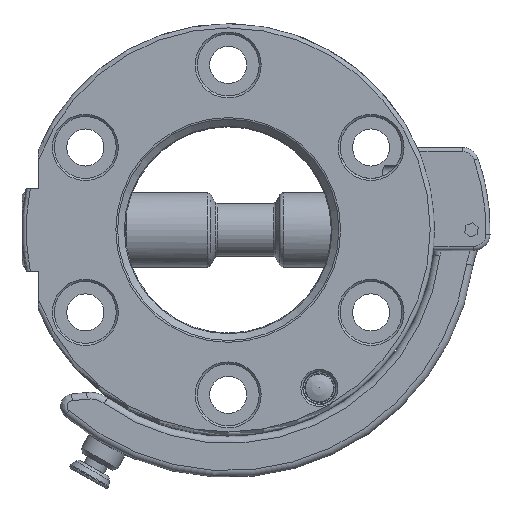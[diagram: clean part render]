
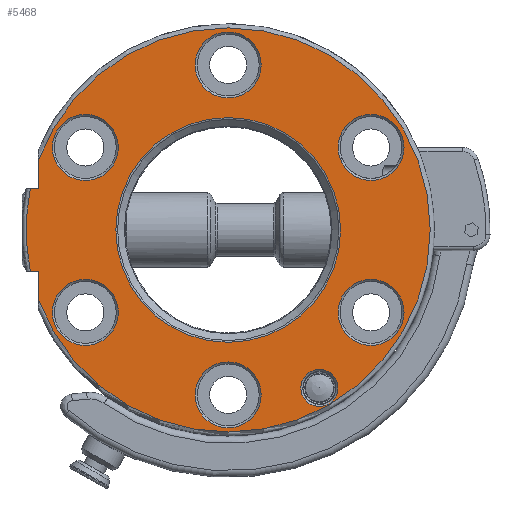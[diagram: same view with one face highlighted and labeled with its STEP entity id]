
A CAD part, front view. The second image highlights one B-rep face of the part: STEP entity #5468.
In plain terms, the highlighted planar face has unit normal (0, -1, 0).
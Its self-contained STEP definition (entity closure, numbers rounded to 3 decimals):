
#234=FACE_BOUND('',#828,.T.);
#235=FACE_BOUND('',#829,.T.);
#236=FACE_BOUND('',#830,.T.);
#237=FACE_BOUND('',#831,.T.);
#238=FACE_BOUND('',#832,.T.);
#239=FACE_BOUND('',#833,.T.);
#240=FACE_BOUND('',#834,.T.);
#241=FACE_BOUND('',#835,.T.);
#315=PLANE('',#6043);
#523=FACE_OUTER_BOUND('',#827,.T.);
#827=EDGE_LOOP('',(#4162,#4163,#4164,#4165,#4166,#4167));
#828=EDGE_LOOP('',(#4168));
#829=EDGE_LOOP('',(#4169));
#830=EDGE_LOOP('',(#4170));
#831=EDGE_LOOP('',(#4171,#4172));
#832=EDGE_LOOP('',(#4173));
#833=EDGE_LOOP('',(#4174));
#834=EDGE_LOOP('',(#4175));
#835=EDGE_LOOP('',(#4176));
#1100=LINE('',#9414,#1372);
#1105=LINE('',#9423,#1377);
#1108=LINE('',#9439,#1380);
#1115=LINE('',#9455,#1387);
#1372=VECTOR('',#7148,10.);
#1377=VECTOR('',#7155,10.);
#1380=VECTOR('',#7172,10.);
#1387=VECTOR('',#7191,10.);
#1710=CIRCLE('',#5903,27.249);
#1711=CIRCLE('',#5904,27.249);
#1715=CIRCLE('',#5909,49.);
#1751=CIRCLE('',#5960,49.);
#1776=CIRCLE('',#6009,8.);
#1779=CIRCLE('',#6014,8.);
#1782=CIRCLE('',#6019,8.);
#1785=CIRCLE('',#6024,8.);
#1788=CIRCLE('',#6029,8.);
#1791=CIRCLE('',#6034,8.);
#1797=CIRCLE('',#6044,4.5);
#2186=VERTEX_POINT('',#8948);
#2187=VERTEX_POINT('',#8950);
#2188=VERTEX_POINT('',#8954);
#2193=VERTEX_POINT('',#8972);
#2261=VERTEX_POINT('',#9389);
#2262=VERTEX_POINT('',#9400);
#2263=VERTEX_POINT('',#9413);
#2266=VERTEX_POINT('',#9421);
#2293=VERTEX_POINT('',#9521);
#2296=VERTEX_POINT('',#9531);
#2299=VERTEX_POINT('',#9541);
#2302=VERTEX_POINT('',#9551);
#2305=VERTEX_POINT('',#9561);
#2308=VERTEX_POINT('',#9571);
#2314=VERTEX_POINT('',#9590);
#2823=EDGE_CURVE('',#2186,#2187,#1710,.T.);
#2824=EDGE_CURVE('',#2187,#2186,#1711,.T.);
#2830=EDGE_CURVE('',#2193,#2188,#1715,.T.);
#2907=EDGE_CURVE('',#2261,#2262,#1751,.T.);
#2909=EDGE_CURVE('',#2263,#2262,#1100,.T.);
#2914=EDGE_CURVE('',#2261,#2266,#1105,.T.);
#2921=EDGE_CURVE('',#2266,#2188,#1108,.T.);
#2931=EDGE_CURVE('',#2193,#2263,#1115,.T.);
#2964=EDGE_CURVE('',#2293,#2293,#1776,.T.);
#2969=EDGE_CURVE('',#2296,#2296,#1779,.T.);
#2974=EDGE_CURVE('',#2299,#2299,#1782,.T.);
#2979=EDGE_CURVE('',#2302,#2302,#1785,.T.);
#2984=EDGE_CURVE('',#2305,#2305,#1788,.T.);
#2989=EDGE_CURVE('',#2308,#2308,#1791,.T.);
#2998=EDGE_CURVE('',#2314,#2314,#1797,.T.);
#4162=ORIENTED_EDGE('',*,*,#2921,.T.);
#4163=ORIENTED_EDGE('',*,*,#2830,.F.);
#4164=ORIENTED_EDGE('',*,*,#2931,.T.);
#4165=ORIENTED_EDGE('',*,*,#2909,.T.);
#4166=ORIENTED_EDGE('',*,*,#2907,.F.);
#4167=ORIENTED_EDGE('',*,*,#2914,.T.);
#4168=ORIENTED_EDGE('',*,*,#2989,.F.);
#4169=ORIENTED_EDGE('',*,*,#2979,.F.);
#4170=ORIENTED_EDGE('',*,*,#2969,.F.);
#4171=ORIENTED_EDGE('',*,*,#2824,.F.);
#4172=ORIENTED_EDGE('',*,*,#2823,.F.);
#4173=ORIENTED_EDGE('',*,*,#2964,.F.);
#4174=ORIENTED_EDGE('',*,*,#2974,.F.);
#4175=ORIENTED_EDGE('',*,*,#2984,.F.);
#4176=ORIENTED_EDGE('',*,*,#2998,.F.);
#5468=ADVANCED_FACE('',(#523,#234,#235,#236,#237,#238,#239,#240,#241),#315,
 .T.);
#5903=AXIS2_PLACEMENT_3D('',#8951,#7013,#7014);
#5904=AXIS2_PLACEMENT_3D('',#8952,#7015,#7016);
#5909=AXIS2_PLACEMENT_3D('',#8983,#7025,#7026);
#5960=AXIS2_PLACEMENT_3D('',#9401,#7144,#7145);
#6009=AXIS2_PLACEMENT_3D('',#9522,#7273,#7274);
#6014=AXIS2_PLACEMENT_3D('',#9532,#7285,#7286);
#6019=AXIS2_PLACEMENT_3D('',#9542,#7297,#7298);
#6024=AXIS2_PLACEMENT_3D('',#9552,#7309,#7310);
#6029=AXIS2_PLACEMENT_3D('',#9562,#7321,#7322);
#6034=AXIS2_PLACEMENT_3D('',#9572,#7333,#7334);
#6043=AXIS2_PLACEMENT_3D('',#9589,#7354,#7355);
#6044=AXIS2_PLACEMENT_3D('',#9591,#7356,#7357);
#7013=DIRECTION('center_axis',(0.,-1.,0.));
#7014=DIRECTION('ref_axis',(1.,0.,0.));
#7015=DIRECTION('center_axis',(0.,-1.,0.));
#7016=DIRECTION('ref_axis',(1.,0.,0.));
#7025=DIRECTION('center_axis',(0.,1.,0.));
#7026=DIRECTION('ref_axis',(1.,0.,0.));
#7144=DIRECTION('center_axis',(0.,1.,0.));
#7145=DIRECTION('ref_axis',(1.,0.,0.));
#7148=DIRECTION('',(-1.,0.,0.));
#7155=DIRECTION('',(1.,0.,0.));
#7172=DIRECTION('',(0.,0.,-1.));
#7191=DIRECTION('',(0.,0.,-1.));
#7273=DIRECTION('center_axis',(0.,-1.,0.));
#7274=DIRECTION('ref_axis',(-1.,0.,0.));
#7285=DIRECTION('center_axis',(0.,-1.,0.));
#7286=DIRECTION('ref_axis',(-1.,0.,0.));
#7297=DIRECTION('center_axis',(0.,-1.,0.));
#7298=DIRECTION('ref_axis',(-1.,0.,0.));
#7309=DIRECTION('center_axis',(0.,-1.,0.));
#7310=DIRECTION('ref_axis',(-1.,0.,0.));
#7321=DIRECTION('center_axis',(0.,-1.,0.));
#7322=DIRECTION('ref_axis',(-1.,0.,0.));
#7333=DIRECTION('center_axis',(0.,-1.,0.));
#7334=DIRECTION('ref_axis',(-1.,0.,0.));
#7354=DIRECTION('center_axis',(0.,-1.,0.));
#7355=DIRECTION('ref_axis',(0.,0.,-1.));
#7356=DIRECTION('center_axis',(0.,-1.,0.));
#7357=DIRECTION('ref_axis',(-1.,0.,0.));
#8948=CARTESIAN_POINT('',(0.,0.,27.249));
#8950=CARTESIAN_POINT('',(-27.249,0.,0.));
#8951=CARTESIAN_POINT('Origin',(0.,0.,
0.));
#8952=CARTESIAN_POINT('Origin',(0.,0.,
0.));
#8954=CARTESIAN_POINT('',(-46.,0.,-16.882));
#8972=CARTESIAN_POINT('',(-46.,0.,16.882));
#8983=CARTESIAN_POINT('Origin',(0.,0.,
0.));
#9389=CARTESIAN_POINT('',(-47.969,0.,-10.));
#9400=CARTESIAN_POINT('',(-47.969,0.,10.));
#9401=CARTESIAN_POINT('Origin',(0.,0.,
0.));
#9413=CARTESIAN_POINT('',(-46.,0.,10.));
#9414=CARTESIAN_POINT('',(-41.75,0.,10.));
#9421=CARTESIAN_POINT('',(-46.,0.,-10.));
#9423=CARTESIAN_POINT('',(-43.245,0.,-10.));
#9439=CARTESIAN_POINT('',(-46.,0.,-5.));
#9455=CARTESIAN_POINT('',(-46.,0.,9.798));
#9521=CARTESIAN_POINT('',(-26.641,0.,-20.));
#9522=CARTESIAN_POINT('Origin',(-34.641,0.,
-20.));
#9531=CARTESIAN_POINT('',(8.,0.,-40.));
#9532=CARTESIAN_POINT('Origin',(0.,0.,
-40.));
#9541=CARTESIAN_POINT('',(-26.641,0.,20.));
#9542=CARTESIAN_POINT('Origin',(-34.641,0.,
20.));
#9551=CARTESIAN_POINT('',(8.,0.,40.));
#9552=CARTESIAN_POINT('Origin',(0.,0.,
40.));
#9561=CARTESIAN_POINT('',(42.641,0.,20.));
#9562=CARTESIAN_POINT('Origin',(34.641,0.,20.));
#9571=CARTESIAN_POINT('',(42.641,0.,-20.));
#9572=CARTESIAN_POINT('Origin',(34.641,0.,-20.));
#9589=CARTESIAN_POINT('Origin',(-37.5,0.,0.));
#9590=CARTESIAN_POINT('',(26.625,0.,-38.322));
#9591=CARTESIAN_POINT('Origin',(22.125,0.,-38.322));
